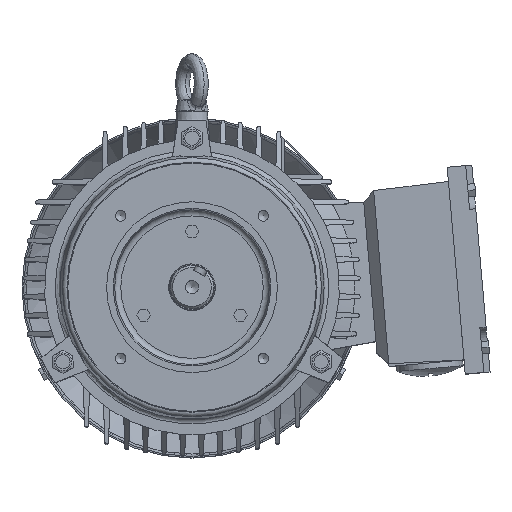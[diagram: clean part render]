
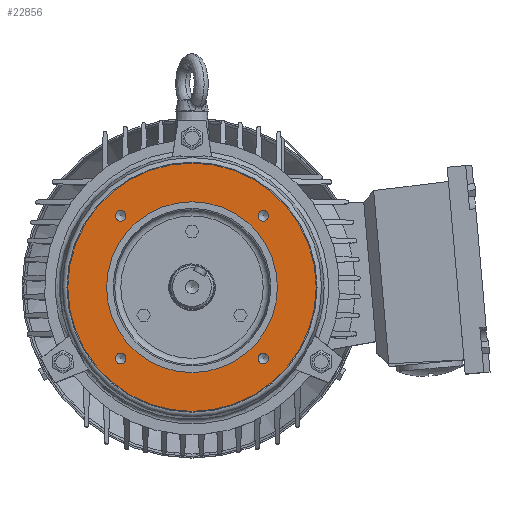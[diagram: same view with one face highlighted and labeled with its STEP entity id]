
A CAD part, top view. The second image highlights one B-rep face of the part: STEP entity #22856.
In plain terms, the highlighted planar face has unit normal (0, 0, 1) as drawn and (-1, 0, 0) by its records, which use the part's own axes.
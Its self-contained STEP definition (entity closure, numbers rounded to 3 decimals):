
#920=PLANE('',#25120);
#1121=FACE_BOUND('',#4014,.T.);
#1122=FACE_BOUND('',#4015,.T.);
#1123=FACE_BOUND('',#4016,.T.);
#1124=FACE_BOUND('',#4017,.T.);
#1125=FACE_BOUND('',#4018,.T.);
#2589=FACE_OUTER_BOUND('',#4013,.T.);
#4013=EDGE_LOOP('',(#20820));
#4014=EDGE_LOOP('',(#20821));
#4015=EDGE_LOOP('',(#20822));
#4016=EDGE_LOOP('',(#20823));
#4017=EDGE_LOOP('',(#20824));
#4018=EDGE_LOOP('',(#20825));
#4958=CIRCLE('',#25021,3.4);
#4960=CIRCLE('',#25025,3.4);
#4962=CIRCLE('',#25029,3.4);
#4964=CIRCLE('',#25033,3.4);
#4974=CIRCLE('',#25049,55.);
#4975=CIRCLE('',#25051,80.);
#11088=VERTEX_POINT('',#40003);
#11091=VERTEX_POINT('',#40012);
#11094=VERTEX_POINT('',#40021);
#11097=VERTEX_POINT('',#40030);
#11108=VERTEX_POINT('',#40063);
#11109=VERTEX_POINT('',#40067);
#14289=EDGE_CURVE('',#11088,#11088,#4958,.T.);
#14293=EDGE_CURVE('',#11091,#11091,#4960,.T.);
#14297=EDGE_CURVE('',#11094,#11094,#4962,.T.);
#14301=EDGE_CURVE('',#11097,#11097,#4964,.T.);
#14317=EDGE_CURVE('',#11108,#11108,#4974,.T.);
#14318=EDGE_CURVE('',#11109,#11109,#4975,.T.);
#20820=ORIENTED_EDGE('',*,*,#14318,.T.);
#20821=ORIENTED_EDGE('',*,*,#14289,.F.);
#20822=ORIENTED_EDGE('',*,*,#14293,.F.);
#20823=ORIENTED_EDGE('',*,*,#14297,.F.);
#20824=ORIENTED_EDGE('',*,*,#14301,.F.);
#20825=ORIENTED_EDGE('',*,*,#14317,.F.);
#22856=ADVANCED_FACE('',(#2589,#1121,#1122,#1123,#1124,#1125),#920,.F.);
#25021=AXIS2_PLACEMENT_3D('',#40005,#31112,#31113);
#25025=AXIS2_PLACEMENT_3D('',#40014,#31122,#31123);
#25029=AXIS2_PLACEMENT_3D('',#40023,#31132,#31133);
#25033=AXIS2_PLACEMENT_3D('',#40032,#31142,#31143);
#25049=AXIS2_PLACEMENT_3D('',#40065,#31180,#31181);
#25051=AXIS2_PLACEMENT_3D('',#40068,#31184,#31185);
#25120=AXIS2_PLACEMENT_3D('',#40412,#31393,#31394);
#31112=DIRECTION('center_axis',(-1.,0.,0.));
#31113=DIRECTION('ref_axis',(0.,0.,1.));
#31122=DIRECTION('center_axis',(-1.,0.,0.));
#31123=DIRECTION('ref_axis',(0.,0.,1.));
#31132=DIRECTION('center_axis',(-1.,0.,0.));
#31133=DIRECTION('ref_axis',(0.,0.,1.));
#31142=DIRECTION('center_axis',(-1.,0.,0.));
#31143=DIRECTION('ref_axis',(0.,0.,1.));
#31180=DIRECTION('center_axis',(-1.,0.,0.));
#31181=DIRECTION('ref_axis',(0.,0.,1.));
#31184=DIRECTION('center_axis',(-1.,0.,0.));
#31185=DIRECTION('ref_axis',(0.,0.,1.));
#31393=DIRECTION('center_axis',(1.,0.,0.));
#31394=DIRECTION('ref_axis',(0.,0.,-1.));
#40003=CARTESIAN_POINT('',(3.5,45.962,42.562));
#40005=CARTESIAN_POINT('Origin',(3.5,45.962,45.962));
#40012=CARTESIAN_POINT('',(3.5,-45.962,42.562));
#40014=CARTESIAN_POINT('Origin',(3.5,-45.962,45.962));
#40021=CARTESIAN_POINT('',(3.5,-45.962,-49.362));
#40023=CARTESIAN_POINT('Origin',(3.5,-45.962,-45.962));
#40030=CARTESIAN_POINT('',(3.5,45.962,-49.362));
#40032=CARTESIAN_POINT('Origin',(3.5,45.962,-45.962));
#40063=CARTESIAN_POINT('',(3.5,0.,-55.));
#40065=CARTESIAN_POINT('Origin',(3.5,0.,0.));
#40067=CARTESIAN_POINT('',(3.5,0.,-80.));
#40068=CARTESIAN_POINT('Origin',(3.5,0.,0.));
#40412=CARTESIAN_POINT('Origin',(3.5,55.,0.));
